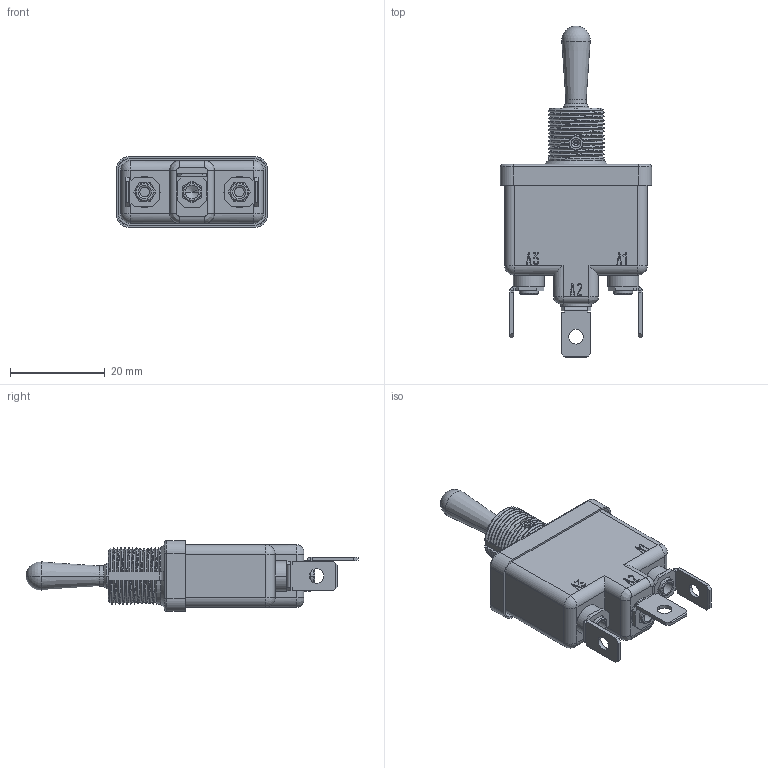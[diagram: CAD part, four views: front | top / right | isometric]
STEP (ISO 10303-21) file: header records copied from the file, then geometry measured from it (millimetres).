
FILE_DESCRIPTION((''),'2;1');
FILE_NAME('3536-021G002_ASM','2012-02-03T',('jlgachon'),(''),'PRO/ENGINEER BY PARAMETRIC TECHNOLOGY CORPORATION, 2010280','PRO/ENGINEER BY PARAMETRIC TECHNOLOGY CORPORATION, 2010280','');
FILE_SCHEMA(('CONFIG_CONTROL_DESIGN'));
Products named in the file (12): 6-242-0; 6-232-0; 6-406-0; 6-253_ASM; 64-411; 6-210; U1658-0; 6-415-0; MEMBRANE_SILICONE_UNI; 6-214_ASM; 6-317-5; 3536-021G002_ASM
Assembly tree (14 placements, depth 3):
  3536-021G002_ASM
    6-253_ASM
      6-242-0
      6-232-0
      6-406-0  x2
    64-411  x3
    6-214_ASM
      6-210
      U1658-0
      6-415-0
      MEMBRANE_SILICONE_UNI
    6-317-5
Bounding box: 32 x 70.25 x 15 mm (x, y, z)
Volume: 7994.8 mm3; surface area: 10848.7 mm2
Topology: 12 solids, 12 shells, 729 faces, 1791 edges, 1110 vertices
Faces by surface type: plane 311, cylinder 224, cone 70, bspline 62, torus 48, sphere 14
Entity records: 44210 total; most frequent: CARTESIAN_POINT 29364, ORIENTED_EDGE 3082, DIRECTION 2984, EDGE_CURVE 1541, AXIS2_PLACEMENT_3D 1102, VERTEX_POINT 960, VECTOR 780, LINE 780
